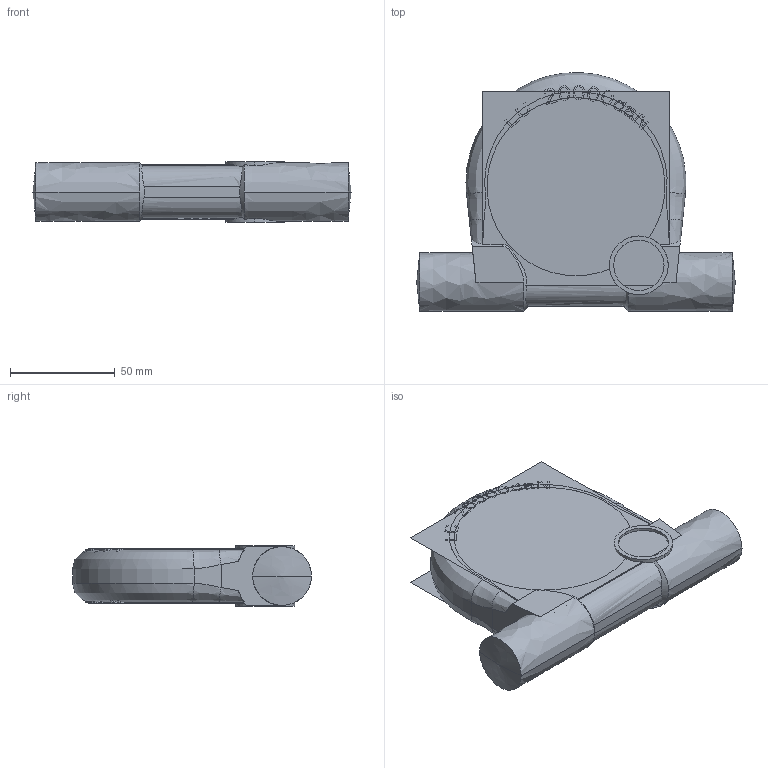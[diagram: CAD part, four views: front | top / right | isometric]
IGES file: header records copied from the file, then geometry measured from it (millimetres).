
Start section:  PTC IGES file: Zurrlasche-20000daN_7902331_M34428-P-1.igs
Global section: file name: Zurrlasche-20000daN_7902331_M34428-P-1.igs; native system: Pro/ENGINEER by Parametric Technology Corporation; preprocessor: 2010140; author: Andreas.Wendler; organization: Unknown; date: 20150819.074908; units: millimetre
Bounding box: 152 x 113.96 x 29 mm (x, y, z)
Volume: 190683.6 mm3; surface area: 69915.3 mm2
Topology: 1 solids, 3 shells, 922 faces, 2830 edges, 1972 vertices
Faces by surface type: bspline 842, revolution 80
